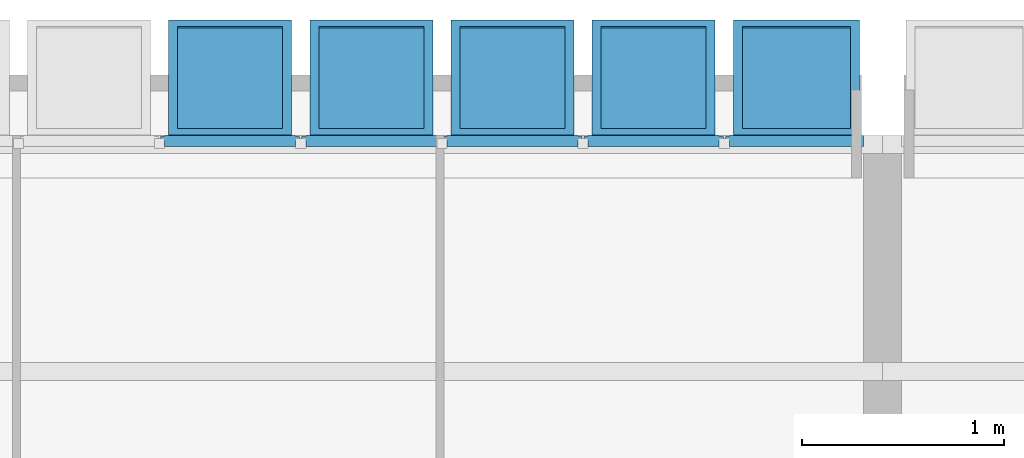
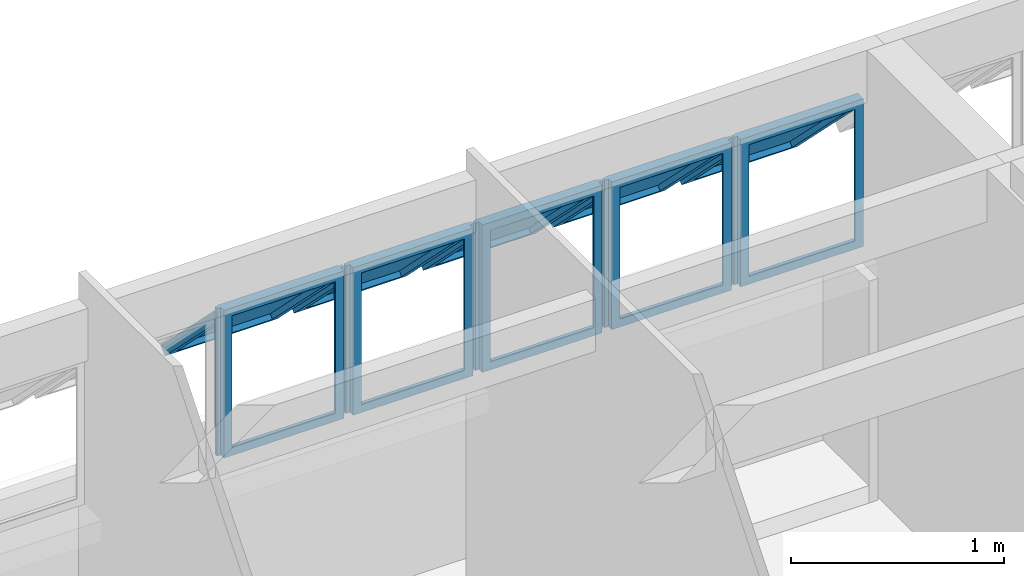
# One storey, part 15 of 41: 5 plates, 1 element without a shape of its own.
"""IFC4 building model written with IfcOpenShell, lengths in millimetres."""

from ifc_helpers import new_model, entity, si_unit, converted_unit, derived_unit, direction, frame, origin_with_axes, place, context, subcontext, project, spatial, polygons, source, transform, mapped, material, constituent, constituent_set, type_object, element, aggregate, save


model = new_model("IFC4")

# Units and contexts
model_context = context("Model", 3, precision=0.01, world=origin_with_axes(), true_north=direction((0.0, 1.0)))
body_context = subcontext(model_context, "Body", "Model", "MODEL_VIEW")
ifc_project = project(units=[si_unit("LENGTHUNIT", "METRE", prefix="MILLI"), si_unit("AREAUNIT", "SQUARE_METRE"), si_unit("VOLUMEUNIT", "CUBIC_METRE"), converted_unit("PLANEANGLEUNIT", "DEGREE", entity("IfcPlaneAngleMeasure", 0.0174532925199), si_unit("PLANEANGLEUNIT", "RADIAN"), dimensions=[0, 0, 0, 0, 0, 0, 0]), converted_unit("TIMEUNIT", "Year", entity("IfcTimeMeasure", 31556926.0), si_unit("TIMEUNIT", "SECOND"), dimensions=[0, 0, 1, 0, 0, 0, 0]), si_unit("MASSUNIT", "GRAM", prefix="KILO"), si_unit("THERMODYNAMICTEMPERATUREUNIT", "DEGREE_CELSIUS"), si_unit("LUMINOUSINTENSITYUNIT", "LUMEN"), si_unit("ENERGYUNIT", "JOULE", prefix="MEGA"), derived_unit("THERMALCONDUCTANCEUNIT", [(si_unit("POWERUNIT", "WATT"), 1), (si_unit("LENGTHUNIT", "METRE"), -1), (si_unit("THERMODYNAMICTEMPERATUREUNIT", "KELVIN"), -1)]), derived_unit("SPECIFICHEATCAPACITYUNIT", [(si_unit("ENERGYUNIT", "JOULE"), 1), (si_unit("MASSUNIT", "GRAM", prefix="KILO"), -1), (si_unit("THERMODYNAMICTEMPERATUREUNIT", "KELVIN"), -1)]), derived_unit("MASSDENSITYUNIT", [(si_unit("MASSUNIT", "GRAM", prefix="KILO"), 1), (si_unit("VOLUMEUNIT", "CUBIC_METRE"), -1)])], contexts=[model_context])

# Site, building, storey
site_placement = place(None, origin_with_axes())
site = spatial("IfcSite", under=ifc_project, at=site_placement, Name="Local", CompositionType="ELEMENT")
building_placement = place(site_placement, origin_with_axes())
building = spatial("IfcBuilding", under=site, at=building_placement, Name="Construção", CompositionType="ELEMENT")
storey_placement = place(building_placement, frame((0.0, 0.0, 2650.0), z_axis=(0.0, 0.0, 1.0), x_axis=(1.0, 0.0, 0.0)))
storey = spatial("IfcBuildingStorey", under=building, at=storey_placement, Name="Segundo Pavimento", CompositionType="ELEMENT", Elevation=2650.0)

# Window, plates
window_type = type_object("IfcWindowType", Name="Tipo de Parede Cortina", PartitioningType="NOTDEFINED", PredefinedType="NOTDEFINED")
window_placement = place(storey_placement, frame((6250.0, 25844.9790225, 1355.02054151), z_axis=(0.0, 0.0, 1.0), x_axis=(1.0, 0.0, 0.0)))
window = element("IfcWindow", 1, at=window_placement, inside=storey, type_object=window_type, Name="APTO7-JANELA-001", PredefinedType="NOTDEFINED")
ifc_material_1 = material(Name="Alumínio")
ifc_constituent_1 = constituent(ifc_material_1, Name="Alumínio")
ifc_material_2 = material(Name="Vidro")
ifc_constituent_2 = constituent(ifc_material_2, Name="Vidro")
ifc_constituent_set_1 = constituent_set(constituents=[ifc_constituent_1, ifc_constituent_2])
plate_type_1 = type_object("IfcPlateType", Name="Painel Principal 690 x 845 x 20", PredefinedType="CURTAIN_PANEL")
shared_shape_1 = source(origin_with_axes(), body_context, "Body", "Tessellation", [
    polygons([(-25.0000036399, 0.0, -40.0), (-25.0000036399, 0.0, -35.0), (-674.999997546, 0.0, -35.0), (-674.999997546, 0.0, -40.0), (-70.0000036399, 45.0, -40.0), (-70.0000036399, 45.0, -35.0), (-629.999997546, 45.0, -35.0), (-629.999997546, 45.0, -40.0)], [[[1, 2, 3, 4]], [[5, 6, 2, 1]], [[2, 6, 7, 3]], [[4, 3, 7, 8]], [[1, 4, 8, 5]], [[8, 7, 6, 5]]], closed=True),
    polygons([(-674.999997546, 0.0, -40.0), (-674.999997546, 0.0, -35.0), (-674.999997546, 844.999891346, -35.0), (-674.999997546, 844.999891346, -40.0), (-629.999997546, 45.0, -40.0), (-629.999997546, 45.0, -35.0), (-629.999997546, 799.999891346, -35.0), (-629.999997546, 799.999891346, -40.0)], [[[1, 2, 3, 4]], [[5, 6, 2, 1]], [[2, 6, 7, 3]], [[4, 3, 7, 8]], [[1, 4, 8, 5]], [[8, 7, 6, 5]]], closed=True),
    polygons([(-25.0000036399, 844.999891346, -40.0), (-25.0000036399, 844.999891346, -35.0), (-70.0000036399, 799.999891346, -35.0), (-70.0000036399, 799.999891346, -40.0), (-674.999997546, 844.999891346, -40.0), (-674.999997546, 844.999891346, -35.0), (-629.999997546, 799.999891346, -35.0), (-629.999997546, 799.999891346, -40.0)], [[[1, 2, 3, 4]], [[5, 6, 2, 1]], [[2, 6, 7, 3]], [[4, 3, 7, 8]], [[1, 4, 8, 5]], [[8, 7, 6, 5]]], closed=True),
    polygons([(-25.0000036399, 0.0, -40.0), (-25.0000036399, 0.0, -35.0), (-70.0000036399, 45.0, -35.0), (-70.0000036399, 45.0, -40.0), (-25.0000036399, 844.999891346, -40.0), (-25.0000036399, 844.999891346, -35.0), (-70.0000036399, 799.999891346, -35.0), (-70.0000036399, 799.999891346, -40.0)], [[[1, 2, 3, 4]], [[5, 6, 2, 1]], [[2, 6, 7, 3]], [[4, 3, 7, 8]], [[1, 4, 8, 5]], [[8, 7, 6, 5]]], closed=True),
    polygons([(-25.0000036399, 0.0, -35.0), (-25.0000036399, 0.0, 15.0), (-674.999997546, 0.0, 15.0), (-674.999997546, 0.0, -35.0), (-45.0000036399, 20.0, -35.0), (-45.0000036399, 20.0, 15.0), (-654.999997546, 20.0, 15.0), (-654.999997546, 20.0, -35.0)], [[[1, 2, 3, 4]], [[5, 6, 2, 1]], [[2, 6, 7, 3]], [[4, 3, 7, 8]], [[1, 4, 8, 5]], [[8, 7, 6, 5]]], closed=True),
    polygons([(-674.999997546, 0.0, -35.0), (-674.999997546, 0.0, 15.0), (-674.999997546, 844.999891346, 15.0), (-674.999997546, 844.999891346, -35.0), (-654.999997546, 20.0, -35.0), (-654.999997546, 20.0, 15.0), (-654.999997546, 824.999891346, 15.0), (-654.999997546, 824.999891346, -35.0)], [[[1, 2, 3, 4]], [[5, 6, 2, 1]], [[2, 6, 7, 3]], [[4, 3, 7, 8]], [[1, 4, 8, 5]], [[8, 7, 6, 5]]], closed=True),
    polygons([(-25.0000036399, 844.999891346, -35.0), (-25.0000036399, 844.999891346, 15.0), (-45.0000036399, 824.999891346, 15.0), (-45.0000036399, 824.999891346, -35.0), (-674.999997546, 844.999891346, -35.0), (-674.999997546, 844.999891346, 15.0), (-654.999997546, 824.999891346, 15.0), (-654.999997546, 824.999891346, -35.0)], [[[1, 2, 3, 4]], [[5, 6, 2, 1]], [[2, 6, 7, 3]], [[4, 3, 7, 8]], [[1, 4, 8, 5]], [[8, 7, 6, 5]]], closed=True),
    polygons([(-25.0000036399, 0.0, -35.0), (-25.0000036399, 0.0, 15.0), (-45.0000036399, 20.0, 15.0), (-45.0000036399, 20.0, -35.0), (-25.0000036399, 844.999891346, -35.0), (-25.0000036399, 844.999891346, 15.0), (-45.0000036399, 824.999891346, 15.0), (-45.0000036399, 824.999891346, -35.0)], [[[1, 2, 3, 4]], [[5, 6, 2, 1]], [[2, 6, 7, 3]], [[4, 3, 7, 8]], [[1, 4, 8, 5]], [[8, 7, 6, 5]]], closed=True),
    polygons([(-694.999995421, 0.0, -10.0), (-694.999995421, 0.0, 10.0), (-694.999995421, 844.999891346, 10.0), (-694.999995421, 844.999891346, -10.0), (-674.999997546, 0.0, -10.0), (-674.999997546, 0.0, 10.0), (-674.999997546, 844.999891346, 10.0), (-674.999997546, 844.999891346, -10.0)], [[[1, 2, 3, 4]], [[5, 6, 2, 1]], [[2, 6, 7, 3]], [[4, 3, 7, 8]], [[1, 4, 8, 5]], [[8, 7, 6, 5]]], closed=True),
    polygons([(-5.00000576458, 844.999891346, -10.0), (-5.00000576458, 844.999891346, 10.0), (-5.00000576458, 0.0, 10.0), (-5.00000576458, 0.0, -10.0), (-25.0000036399, 844.999891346, -10.0), (-25.0000036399, 844.999891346, 10.0), (-25.0000036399, 0.0, 10.0), (-25.0000036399, 0.0, -10.0)], [[[1, 2, 3, 4]], [[5, 6, 2, 1]], [[2, 6, 7, 3]], [[4, 3, 7, 8]], [[1, 4, 8, 5]], [[8, 7, 6, 5]]], closed=True),
    polygons([(-90.0000036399, 252.243475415, 517.045737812), (-90.0000036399, 291.13434838, 555.936610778), (-90.0000036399, 796.715620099, 50.3553390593), (-90.0000036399, 757.824747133, 11.4644660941), (-45.0000036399, 220.423670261, 548.865542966), (-45.0000036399, 259.314543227, 587.756415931), (-45.0000036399, 828.535425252, 18.5355339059), (-45.0000036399, 789.644552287, -20.3553390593)], [[[1, 2, 3, 4]], [[5, 6, 2, 1]], [[2, 6, 7, 3]], [[4, 3, 7, 8]], [[1, 4, 8, 5]], [[8, 7, 6, 5]]], closed=True),
    polygons([(-654.999997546, 220.423670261, 548.865542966), (-654.999997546, 259.314543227, 587.756415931), (-654.999997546, 828.535425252, 18.5355339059), (-654.999997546, 789.644552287, -20.3553390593), (-609.999997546, 252.243475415, 517.045737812), (-609.999997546, 291.13434838, 555.936610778), (-609.999997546, 796.715620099, 50.3553390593), (-609.999997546, 757.824747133, 11.4644660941)], [[[1, 2, 3, 4]], [[5, 6, 2, 1]], [[2, 6, 7, 3]], [[4, 3, 7, 8]], [[1, 4, 8, 5]], [[8, 7, 6, 5]]], closed=True),
    polygons([(-654.999997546, 220.423670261, 548.865542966), (-654.999997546, 259.314543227, 587.756415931), (-609.999997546, 291.13434838, 555.936610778), (-609.999997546, 252.243475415, 517.045737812), (-45.0000036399, 220.423670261, 548.865542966), (-45.0000036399, 259.314543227, 587.756415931), (-90.0000036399, 291.13434838, 555.936610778), (-90.0000036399, 252.243475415, 517.045737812)], [[[1, 2, 3, 4]], [[5, 6, 2, 1]], [[2, 6, 7, 3]], [[4, 3, 7, 8]], [[1, 4, 8, 5]], [[8, 7, 6, 5]]], closed=True),
    polygons([(-45.0000036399, 789.644552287, -20.3553390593), (-45.0000036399, 828.535425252, 18.5355339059), (-90.0000036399, 796.715620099, 50.3553390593), (-90.0000036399, 757.824747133, 11.4644660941), (-654.999997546, 789.644552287, -20.3553390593), (-654.999997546, 828.535425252, 18.5355339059), (-609.999997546, 796.715620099, 50.3553390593), (-609.999997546, 757.824747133, 11.4644660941)], [[[1, 2, 3, 4]], [[5, 6, 2, 1]], [[2, 6, 7, 3]], [[4, 3, 7, 8]], [[1, 4, 8, 5]], [[8, 7, 6, 5]]], closed=True),
    polygons([(-90.0000036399, 272.749572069, 537.551834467), (-90.0000036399, 284.063280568, 548.865542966), (-609.999997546, 284.063280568, 548.865542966), (-609.999997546, 272.749572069, 537.551834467), (-90.0000036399, 778.330843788, 31.9705627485), (-90.0000036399, 789.644552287, 43.2842712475), (-609.999997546, 789.644552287, 43.2842712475), (-609.999997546, 778.330843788, 31.9705627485)], [[[1, 2, 3, 4]], [[5, 6, 2, 1]], [[2, 6, 7, 3]], [[4, 3, 7, 8]], [[1, 4, 8, 5]], [[8, 7, 6, 5]]], closed=True),
])
plate_1_placement = place(window_placement, frame((0.0, 0.0, 422.499945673), z_axis=(0.0, 0.0, 1.0), x_axis=(-1.0, 0.0, 0.0)))
plate_1 = element("IfcPlate", 2, at=plate_1_placement, type_object=plate_type_1, material=ifc_constituent_set_1, Name="APTO7-Painel-Prin-030", PredefinedType="CURTAIN_PANEL", context=body_context, shape_type="MappedRepresentation", body=[
    mapped(shared_shape_1, transform((350.0, 0.0, -422.499945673), x_axis=(1.0, 0.0, 0.0), y_axis=(0.0, 0.0, 1.0), z_axis=(0.0, -1.0, 0.0))),
])
ifc_constituent_3 = constituent(ifc_material_1, Name="Alumínio")
ifc_constituent_4 = constituent(ifc_material_2, Name="Vidro")
ifc_constituent_set_2 = constituent_set(constituents=[ifc_constituent_3, ifc_constituent_4])
plate_2_placement = place(window_placement, frame((-700.0, 0.0, 422.499945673), z_axis=(0.0, 0.0, 1.0), x_axis=(-1.0, 0.0, 0.0)))
plate_2 = element("IfcPlate", 3, at=plate_2_placement, type_object=plate_type_1, material=ifc_constituent_set_2, Name="APTO7-Painel-Prin-020", PredefinedType="CURTAIN_PANEL", context=body_context, shape_type="MappedRepresentation", body=[
    mapped(shared_shape_1, transform((350.0, 0.0, -422.499945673), x_axis=(1.0, 0.0, 0.0), y_axis=(0.0, 0.0, 1.0), z_axis=(0.0, -1.0, 0.0))),
])
ifc_constituent_5 = constituent(ifc_material_1, Name="Alumínio")
ifc_constituent_6 = constituent(ifc_material_2, Name="Vidro")
ifc_constituent_set_3 = constituent_set(constituents=[ifc_constituent_5, ifc_constituent_6])
plate_3_placement = place(window_placement, frame((-1400.0, 0.0, 422.499945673), z_axis=(0.0, 0.0, 1.0), x_axis=(-1.0, 0.0, 0.0)))
plate_3 = element("IfcPlate", 4, at=plate_3_placement, type_object=plate_type_1, material=ifc_constituent_set_3, Name="APTO7-Painel-Prin-029", PredefinedType="CURTAIN_PANEL", context=body_context, shape_type="MappedRepresentation", body=[
    mapped(shared_shape_1, transform((350.0, 0.0, -422.499945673), x_axis=(1.0, 0.0, 0.0), y_axis=(0.0, 0.0, 1.0), z_axis=(0.0, -1.0, 0.0))),
])
ifc_constituent_7 = constituent(ifc_material_1, Name="Alumínio")
ifc_constituent_8 = constituent(ifc_material_2, Name="Vidro")
ifc_constituent_set_4 = constituent_set(constituents=[ifc_constituent_7, ifc_constituent_8])
shared_shape_2 = source(origin_with_axes(), body_context, "Body", "Tessellation", [
    polygons([(-25.0000036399, 0.0, -40.0), (-25.0000036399, 0.0, -35.0), (-674.999997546, 0.0, -35.0), (-674.999997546, 0.0, -40.0), (-70.0000036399, 45.0, -40.0), (-70.0000036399, 45.0, -35.0), (-629.999997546, 45.0, -35.0), (-629.999997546, 45.0, -40.0)], [[[1, 2, 3, 4]], [[5, 6, 2, 1]], [[2, 6, 7, 3]], [[4, 3, 7, 8]], [[1, 4, 8, 5]], [[8, 7, 6, 5]]], closed=True),
    polygons([(-674.999997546, 0.0, -40.0), (-674.999997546, 0.0, -35.0), (-674.999997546, 844.999891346, -35.0), (-674.999997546, 844.999891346, -40.0), (-629.999997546, 45.0, -40.0), (-629.999997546, 45.0, -35.0), (-629.999997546, 799.999891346, -35.0), (-629.999997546, 799.999891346, -40.0)], [[[1, 2, 3, 4]], [[5, 6, 2, 1]], [[2, 6, 7, 3]], [[4, 3, 7, 8]], [[1, 4, 8, 5]], [[8, 7, 6, 5]]], closed=True),
    polygons([(-25.0000036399, 844.999891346, -40.0), (-25.0000036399, 844.999891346, -35.0), (-70.0000036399, 799.999891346, -35.0), (-70.0000036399, 799.999891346, -40.0), (-674.999997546, 844.999891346, -40.0), (-674.999997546, 844.999891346, -35.0), (-629.999997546, 799.999891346, -35.0), (-629.999997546, 799.999891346, -40.0)], [[[1, 2, 3, 4]], [[5, 6, 2, 1]], [[2, 6, 7, 3]], [[4, 3, 7, 8]], [[1, 4, 8, 5]], [[8, 7, 6, 5]]], closed=True),
    polygons([(-25.0000036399, 0.0, -40.0), (-25.0000036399, 0.0, -35.0), (-70.0000036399, 45.0, -35.0), (-70.0000036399, 45.0, -40.0), (-25.0000036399, 844.999891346, -40.0), (-25.0000036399, 844.999891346, -35.0), (-70.0000036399, 799.999891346, -35.0), (-70.0000036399, 799.999891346, -40.0)], [[[1, 2, 3, 4]], [[5, 6, 2, 1]], [[2, 6, 7, 3]], [[4, 3, 7, 8]], [[1, 4, 8, 5]], [[8, 7, 6, 5]]], closed=True),
    polygons([(-25.0000036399, 0.0, -35.0), (-25.0000036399, 0.0, 15.0), (-674.999997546, 0.0, 15.0), (-674.999997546, 0.0, -35.0), (-45.0000036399, 20.0, -35.0), (-45.0000036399, 20.0, 15.0), (-654.999997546, 20.0, 15.0), (-654.999997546, 20.0, -35.0)], [[[1, 2, 3, 4]], [[5, 6, 2, 1]], [[2, 6, 7, 3]], [[4, 3, 7, 8]], [[1, 4, 8, 5]], [[8, 7, 6, 5]]], closed=True),
    polygons([(-674.999997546, 0.0, -35.0), (-674.999997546, 0.0, 15.0), (-674.999997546, 844.999891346, 15.0), (-674.999997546, 844.999891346, -35.0), (-654.999997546, 20.0, -35.0), (-654.999997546, 20.0, 15.0), (-654.999997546, 824.999891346, 15.0), (-654.999997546, 824.999891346, -35.0)], [[[1, 2, 3, 4]], [[5, 6, 2, 1]], [[2, 6, 7, 3]], [[4, 3, 7, 8]], [[1, 4, 8, 5]], [[8, 7, 6, 5]]], closed=True),
    polygons([(-25.0000036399, 844.999891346, -35.0), (-25.0000036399, 844.999891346, 15.0), (-45.0000036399, 824.999891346, 15.0), (-45.0000036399, 824.999891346, -35.0), (-674.999997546, 844.999891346, -35.0), (-674.999997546, 844.999891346, 15.0), (-654.999997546, 824.999891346, 15.0), (-654.999997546, 824.999891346, -35.0)], [[[1, 2, 3, 4]], [[5, 6, 2, 1]], [[2, 6, 7, 3]], [[4, 3, 7, 8]], [[1, 4, 8, 5]], [[8, 7, 6, 5]]], closed=True),
    polygons([(-25.0000036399, 0.0, -35.0), (-25.0000036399, 0.0, 15.0), (-45.0000036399, 20.0, 15.0), (-45.0000036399, 20.0, -35.0), (-25.0000036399, 844.999891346, -35.0), (-25.0000036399, 844.999891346, 15.0), (-45.0000036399, 824.999891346, 15.0), (-45.0000036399, 824.999891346, -35.0)], [[[1, 2, 3, 4]], [[5, 6, 2, 1]], [[2, 6, 7, 3]], [[4, 3, 7, 8]], [[1, 4, 8, 5]], [[8, 7, 6, 5]]], closed=True),
    polygons([(-694.999995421, 0.0, -10.0), (-694.999995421, 0.0, 10.0), (-694.999995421, 844.999891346, 10.0), (-694.999995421, 844.999891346, -10.0), (-674.999997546, 0.0, -10.0), (-674.999997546, 0.0, 10.0), (-674.999997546, 844.999891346, 10.0), (-674.999997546, 844.999891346, -10.0)], [[[1, 2, 3, 4]], [[5, 6, 2, 1]], [[2, 6, 7, 3]], [[4, 3, 7, 8]], [[1, 4, 8, 5]], [[8, 7, 6, 5]]], closed=True),
    polygons([(-5.00000576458, 844.999891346, -10.0), (-5.00000576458, 844.999891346, 10.0), (-5.00000576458, 0.0, 10.0), (-5.00000576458, 0.0, -10.0), (-25.0000036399, 844.999891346, -10.0), (-25.0000036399, 844.999891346, 10.0), (-25.0000036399, 0.0, 10.0), (-25.0000036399, 0.0, -10.0)], [[[1, 2, 3, 4]], [[5, 6, 2, 1]], [[2, 6, 7, 3]], [[4, 3, 7, 8]], [[1, 4, 8, 5]], [[8, 7, 6, 5]]], closed=True),
    polygons([(-90.0000036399, 252.243475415, 517.045737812), (-90.0000036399, 291.13434838, 555.936610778), (-90.0000036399, 796.715620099, 50.3553390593), (-90.0000036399, 757.824747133, 11.4644660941), (-45.0000036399, 220.423670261, 548.865542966), (-45.0000036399, 259.314543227, 587.756415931), (-45.0000036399, 828.535425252, 18.5355339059), (-45.0000036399, 789.644552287, -20.3553390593)], [[[1, 2, 3, 4]], [[5, 6, 2, 1]], [[2, 6, 7, 3]], [[4, 3, 7, 8]], [[1, 4, 8, 5]], [[8, 7, 6, 5]]], closed=True),
    polygons([(-654.999997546, 220.423670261, 548.865542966), (-654.999997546, 259.314543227, 587.756415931), (-654.999997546, 828.535425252, 18.5355339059), (-654.999997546, 789.644552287, -20.3553390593), (-609.999997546, 252.243475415, 517.045737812), (-609.999997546, 291.13434838, 555.936610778), (-609.999997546, 796.715620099, 50.3553390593), (-609.999997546, 757.824747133, 11.4644660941)], [[[1, 2, 3, 4]], [[5, 6, 2, 1]], [[2, 6, 7, 3]], [[4, 3, 7, 8]], [[1, 4, 8, 5]], [[8, 7, 6, 5]]], closed=True),
    polygons([(-654.999997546, 220.423670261, 548.865542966), (-654.999997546, 259.314543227, 587.756415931), (-609.999997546, 291.13434838, 555.936610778), (-609.999997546, 252.243475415, 517.045737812), (-45.0000036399, 220.423670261, 548.865542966), (-45.0000036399, 259.314543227, 587.756415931), (-90.0000036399, 291.13434838, 555.936610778), (-90.0000036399, 252.243475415, 517.045737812)], [[[1, 2, 3, 4]], [[5, 6, 2, 1]], [[2, 6, 7, 3]], [[4, 3, 7, 8]], [[1, 4, 8, 5]], [[8, 7, 6, 5]]], closed=True),
    polygons([(-45.0000036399, 789.644552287, -20.3553390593), (-45.0000036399, 828.535425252, 18.5355339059), (-90.0000036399, 796.715620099, 50.3553390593), (-90.0000036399, 757.824747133, 11.4644660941), (-654.999997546, 789.644552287, -20.3553390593), (-654.999997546, 828.535425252, 18.5355339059), (-609.999997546, 796.715620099, 50.3553390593), (-609.999997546, 757.824747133, 11.4644660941)], [[[1, 2, 3, 4]], [[5, 6, 2, 1]], [[2, 6, 7, 3]], [[4, 3, 7, 8]], [[1, 4, 8, 5]], [[8, 7, 6, 5]]], closed=True),
    polygons([(-90.0000036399, 272.749572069, 537.551834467), (-90.0000036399, 284.063280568, 548.865542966), (-609.999997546, 284.063280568, 548.865542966), (-609.999997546, 272.749572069, 537.551834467), (-90.0000036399, 778.330843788, 31.9705627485), (-90.0000036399, 789.644552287, 43.2842712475), (-609.999997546, 789.644552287, 43.2842712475), (-609.999997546, 778.330843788, 31.9705627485)], [[[1, 2, 3, 4]], [[5, 6, 2, 1]], [[2, 6, 7, 3]], [[4, 3, 7, 8]], [[1, 4, 8, 5]], [[8, 7, 6, 5]]], closed=True),
])
plate_4_placement = place(window_placement, frame((-2100.0, 0.0, 422.499945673), z_axis=(0.0, 0.0, 1.0), x_axis=(-1.0, 0.0, 0.0)))
plate_4 = element("IfcPlate", 5, at=plate_4_placement, type_object=plate_type_1, material=ifc_constituent_set_4, Name="APTO7-Painel-Prin-025", PredefinedType="CURTAIN_PANEL", context=body_context, shape_type="MappedRepresentation", body=[
    mapped(shared_shape_2, transform((350.0, 0.0, -422.499945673), x_axis=(1.0, 0.0, 0.0), y_axis=(0.0, 0.0, 1.0), z_axis=(0.0, -1.0, 0.0))),
])
ifc_constituent_9 = constituent(ifc_material_1, Name="Alumínio")
ifc_constituent_10 = constituent(ifc_material_2, Name="Vidro")
ifc_constituent_set_5 = constituent_set(constituents=[ifc_constituent_9, ifc_constituent_10])
plate_type_2 = type_object("IfcPlateType", Name="Painel Principal 685 x 845 x 20", PredefinedType="CURTAIN_PANEL")
shared_shape_3 = source(origin_with_axes(), body_context, "Body", "Tessellation", [
    polygons([(-25.0000046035, 0.0, -40.0), (-25.0000046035, 0.0, -35.0), (-690.000079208, 0.0, -35.0), (-690.000079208, 0.0, -40.0), (-70.0000046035, 45.0, -40.0), (-70.0000046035, 45.0, -35.0), (-645.000079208, 45.0, -35.0), (-645.000079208, 45.0, -40.0)], [[[1, 2, 3, 4]], [[5, 6, 2, 1]], [[2, 6, 7, 3]], [[4, 3, 7, 8]], [[1, 4, 8, 5]], [[8, 7, 6, 5]]], closed=True),
    polygons([(-690.000079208, 0.0, -40.0), (-690.000079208, 0.0, -35.0), (-690.000079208, 844.999923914, -35.0), (-690.000079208, 844.999923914, -40.0), (-645.000079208, 45.0, -40.0), (-645.000079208, 45.0, -35.0), (-645.000079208, 799.999923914, -35.0), (-645.000079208, 799.999923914, -40.0)], [[[1, 2, 3, 4]], [[5, 6, 2, 1]], [[2, 6, 7, 3]], [[4, 3, 7, 8]], [[1, 4, 8, 5]], [[8, 7, 6, 5]]], closed=True),
    polygons([(-25.0000046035, 844.999923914, -40.0), (-25.0000046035, 844.999923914, -35.0), (-70.0000046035, 799.999923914, -35.0), (-70.0000046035, 799.999923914, -40.0), (-690.000079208, 844.999923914, -40.0), (-690.000079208, 844.999923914, -35.0), (-645.000079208, 799.999923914, -35.0), (-645.000079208, 799.999923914, -40.0)], [[[1, 2, 3, 4]], [[5, 6, 2, 1]], [[2, 6, 7, 3]], [[4, 3, 7, 8]], [[1, 4, 8, 5]], [[8, 7, 6, 5]]], closed=True),
    polygons([(-25.0000046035, 0.0, -40.0), (-25.0000046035, 0.0, -35.0), (-70.0000046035, 45.0, -35.0), (-70.0000046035, 45.0, -40.0), (-25.0000046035, 844.999923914, -40.0), (-25.0000046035, 844.999923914, -35.0), (-70.0000046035, 799.999923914, -35.0), (-70.0000046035, 799.999923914, -40.0)], [[[1, 2, 3, 4]], [[5, 6, 2, 1]], [[2, 6, 7, 3]], [[4, 3, 7, 8]], [[1, 4, 8, 5]], [[8, 7, 6, 5]]], closed=True),
    polygons([(-25.0000046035, 0.0, -35.0), (-25.0000046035, 0.0, 15.0), (-690.000079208, 0.0, 15.0), (-690.000079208, 0.0, -35.0), (-45.0000046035, 20.0, -35.0), (-45.0000046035, 20.0, 15.0), (-670.000079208, 20.0, 15.0), (-670.000079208, 20.0, -35.0)], [[[1, 2, 3, 4]], [[5, 6, 2, 1]], [[2, 6, 7, 3]], [[4, 3, 7, 8]], [[1, 4, 8, 5]], [[8, 7, 6, 5]]], closed=True),
    polygons([(-690.000079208, 0.0, -35.0), (-690.000079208, 0.0, 15.0), (-690.000079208, 844.999923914, 15.0), (-690.000079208, 844.999923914, -35.0), (-670.000079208, 20.0, -35.0), (-670.000079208, 20.0, 15.0), (-670.000079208, 824.999923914, 15.0), (-670.000079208, 824.999923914, -35.0)], [[[1, 2, 3, 4]], [[5, 6, 2, 1]], [[2, 6, 7, 3]], [[4, 3, 7, 8]], [[1, 4, 8, 5]], [[8, 7, 6, 5]]], closed=True),
    polygons([(-25.0000046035, 844.999923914, -35.0), (-25.0000046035, 844.999923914, 15.0), (-45.0000046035, 824.999923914, 15.0), (-45.0000046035, 824.999923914, -35.0), (-690.000079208, 844.999923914, -35.0), (-690.000079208, 844.999923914, 15.0), (-670.000079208, 824.999923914, 15.0), (-670.000079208, 824.999923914, -35.0)], [[[1, 2, 3, 4]], [[5, 6, 2, 1]], [[2, 6, 7, 3]], [[4, 3, 7, 8]], [[1, 4, 8, 5]], [[8, 7, 6, 5]]], closed=True),
    polygons([(-25.0000046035, 0.0, -35.0), (-25.0000046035, 0.0, 15.0), (-45.0000046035, 20.0, 15.0), (-45.0000046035, 20.0, -35.0), (-25.0000046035, 844.999923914, -35.0), (-25.0000046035, 844.999923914, 15.0), (-45.0000046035, 824.999923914, 15.0), (-45.0000046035, 824.999923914, -35.0)], [[[1, 2, 3, 4]], [[5, 6, 2, 1]], [[2, 6, 7, 3]], [[4, 3, 7, 8]], [[1, 4, 8, 5]], [[8, 7, 6, 5]]], closed=True),
    polygons([(-5.00000595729, 844.999923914, -10.0), (-5.00000595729, 844.999923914, 10.0), (-5.00000595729, 0.0, 10.0), (-5.00000595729, 0.0, -10.0), (-25.0000046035, 844.999923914, -10.0), (-25.0000046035, 844.999923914, 10.0), (-25.0000046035, 0.0, 10.0), (-25.0000046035, 0.0, -10.0)], [[[1, 2, 3, 4]], [[5, 6, 2, 1]], [[2, 6, 7, 3]], [[4, 3, 7, 8]], [[1, 4, 8, 5]], [[8, 7, 6, 5]]], closed=True),
    polygons([(-90.0000046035, 252.243484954, 517.045760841), (-90.0000046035, 291.134357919, 555.936633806), (-90.0000046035, 796.715652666, 50.3553390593), (-90.0000046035, 757.824779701, 11.4644660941), (-45.0000046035, 220.4236798, 548.865565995), (-45.0000046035, 259.314552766, 587.75643896), (-45.0000046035, 828.535457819, 18.5355339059), (-45.0000046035, 789.644584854, -20.3553390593)], [[[1, 2, 3, 4]], [[5, 6, 2, 1]], [[2, 6, 7, 3]], [[4, 3, 7, 8]], [[1, 4, 8, 5]], [[8, 7, 6, 5]]], closed=True),
    polygons([(-670.000079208, 220.4236798, 548.865565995), (-670.000079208, 259.314552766, 587.75643896), (-670.000079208, 828.535457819, 18.5355339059), (-670.000079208, 789.644584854, -20.3553390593), (-625.000079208, 252.243484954, 517.045760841), (-625.000079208, 291.134357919, 555.936633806), (-625.000079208, 796.715652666, 50.3553390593), (-625.000079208, 757.824779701, 11.4644660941)], [[[1, 2, 3, 4]], [[5, 6, 2, 1]], [[2, 6, 7, 3]], [[4, 3, 7, 8]], [[1, 4, 8, 5]], [[8, 7, 6, 5]]], closed=True),
    polygons([(-670.000079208, 220.4236798, 548.865565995), (-670.000079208, 259.314552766, 587.75643896), (-625.000079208, 291.134357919, 555.936633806), (-625.000079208, 252.243484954, 517.045760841), (-45.0000046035, 220.4236798, 548.865565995), (-45.0000046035, 259.314552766, 587.75643896), (-90.0000046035, 291.134357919, 555.936633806), (-90.0000046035, 252.243484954, 517.045760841)], [[[1, 2, 3, 4]], [[5, 6, 2, 1]], [[2, 6, 7, 3]], [[4, 3, 7, 8]], [[1, 4, 8, 5]], [[8, 7, 6, 5]]], closed=True),
    polygons([(-45.0000046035, 789.644584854, -20.3553390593), (-45.0000046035, 828.535457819, 18.5355339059), (-90.0000046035, 796.715652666, 50.3553390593), (-90.0000046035, 757.824779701, 11.4644660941), (-670.000079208, 789.644584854, -20.3553390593), (-670.000079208, 828.535457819, 18.5355339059), (-625.000079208, 796.715652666, 50.3553390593), (-625.000079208, 757.824779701, 11.4644660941)], [[[1, 2, 3, 4]], [[5, 6, 2, 1]], [[2, 6, 7, 3]], [[4, 3, 7, 8]], [[1, 4, 8, 5]], [[8, 7, 6, 5]]], closed=True),
    polygons([(-90.0000046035, 272.749581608, 537.551857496), (-90.0000046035, 284.063290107, 548.865565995), (-625.000079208, 284.063290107, 548.865565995), (-625.000079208, 272.749581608, 537.551857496), (-90.0000046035, 778.330876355, 31.9705627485), (-90.0000046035, 789.644584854, 43.2842712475), (-625.000079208, 789.644584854, 43.2842712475), (-625.000079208, 778.330876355, 31.9705627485)], [[[1, 2, 3, 4]], [[5, 6, 2, 1]], [[2, 6, 7, 3]], [[4, 3, 7, 8]], [[1, 4, 8, 5]], [[8, 7, 6, 5]]], closed=True),
])
plate_5_placement = place(window_placement, frame((695.000037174, 0.0, 422.499953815), z_axis=(0.0, 0.0, 1.0), x_axis=(-1.0, 0.0, 0.0)))
plate_5 = element("IfcPlate", 6, at=plate_5_placement, type_object=plate_type_2, material=ifc_constituent_set_5, Name="APTO7-Painel-Prin-031", PredefinedType="CURTAIN_PANEL", context=body_context, shape_type="MappedRepresentation", body=[
    mapped(shared_shape_3, transform((345.000037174, 0.0, -422.499953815), x_axis=(1.0, 0.0, 0.0), y_axis=(0.0, 0.0, 1.0), z_axis=(0.0, -1.0, 0.0))),
])
aggregate(window, [plate_1, plate_5, plate_4, plate_2, plate_3])

save(model, "model.ifc")
